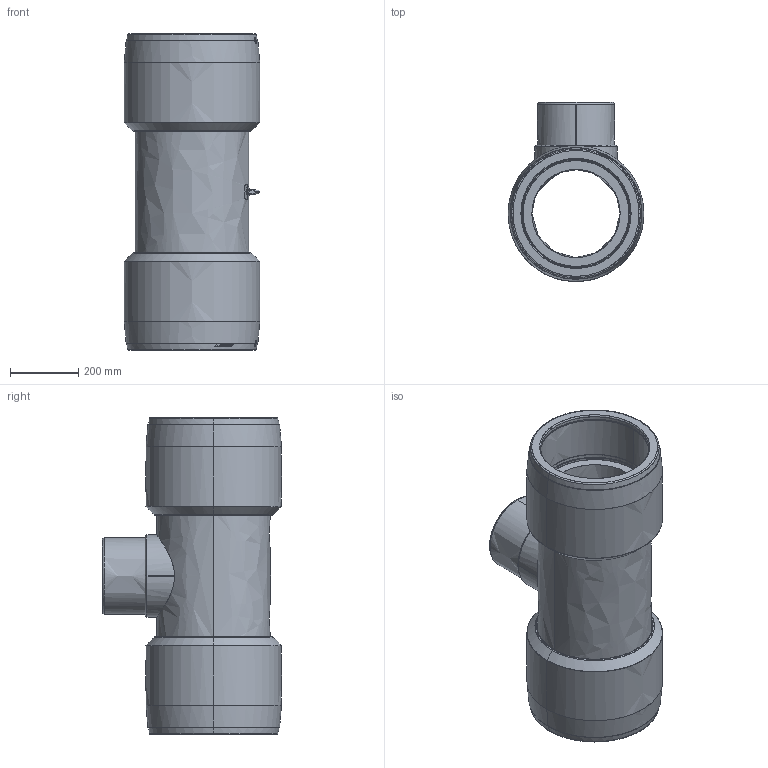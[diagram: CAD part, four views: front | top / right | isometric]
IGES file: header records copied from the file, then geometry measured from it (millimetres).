
Start section:  PTC IGES file: t-red-xl_d315-225.igs
Global section: file name: t-red-xl_d315-225.igs; native system: Pro/ENGINEER by Parametric Technology Corporation; preprocessor: 2011490; author: mtunjic; organization: Unknown; date: 20130729.145254; units: millimetre
Bounding box: 396 x 523 x 926 mm (x, y, z)
Surface area: 2763022.8 mm2 (no closed solid volume)
Topology: 0 solids, 0 shells, 514 faces, 2602 edges, 2602 vertices
Faces by surface type: bspline 514
